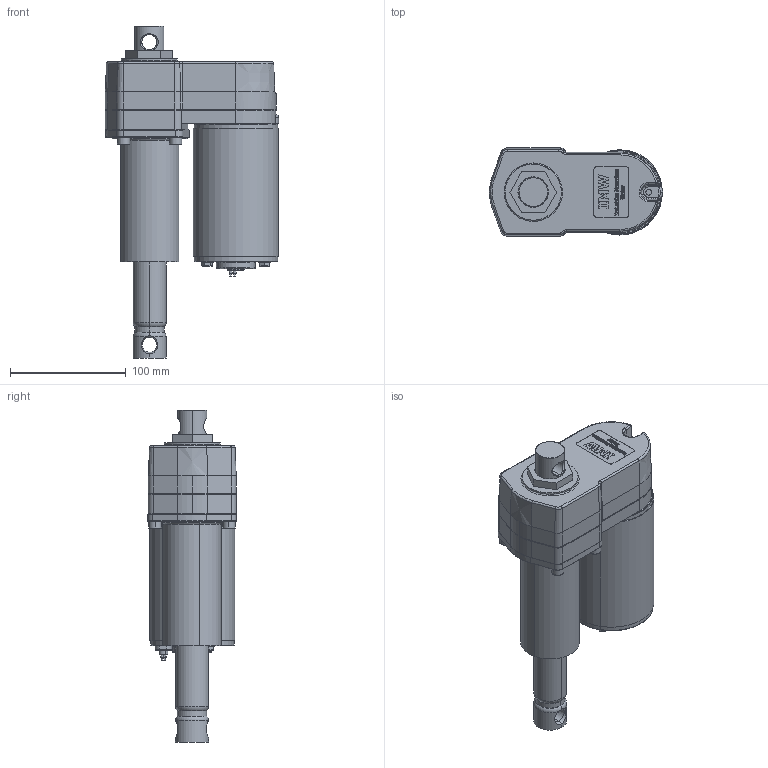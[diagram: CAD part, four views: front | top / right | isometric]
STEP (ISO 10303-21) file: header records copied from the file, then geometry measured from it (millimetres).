
FILE_DESCRIPTION (( 'STEP AP203' ), '1' );
FILE_NAME ('WELACT-2-2-PMS.STEP', '2024-02-09T17:42:02', ( '' ), ( '' ), 'SwSTEP 2.0', 'SolidWorks 2017', '' );
FILE_SCHEMA (( 'CONFIG_CONTROL_DESIGN' ));
Length unit declared in the file: millimetre
Products named in the file (21): 003 - Porta retenes de extremo de tubo-1; Piston 2 2; tubo 2 2 pulg; 010 - Brida-1; 003 - Carcaza de caja WELACT A10-1; 002 - Tapa de caja; 005 - Terminal fijo WELACT A10-1; WELACT-2-2-PMS; 004 - Tuerca de fijacion de terminal fijo WELACT A10-1; 011 - Junta de caja WELACT A10-1; 050 - Motor electrico
Assembly tree (10 placements, depth 2):
  010 - Brida-1
  003 - Carcaza de caja WELACT A10-1
  003 - Porta retenes de extremo de tubo-1
  002 - Tapa de caja
  005 - Terminal fijo WELACT A10-1
Bounding box: 149.98 x 76.5 x 287.37 mm (x, y, z)
Volume: 819183 mm3; surface area: 221310.8 mm2
Topology: 11 solids, 11 shells, 1790 faces, 4506 edges, 2838 vertices
Faces by surface type: plane 603, cylinder 563, bspline 395, torus 152, cone 75, sphere 2
Entity records: 70509 total; most frequent: CARTESIAN_POINT 28561, ORIENTED_EDGE 8960, DIRECTION 7369, EDGE_CURVE 4480, VERTEX_POINT 2834, AXIS2_PLACEMENT_3D 2737, EDGE_LOOP 1958, LINE 1895
